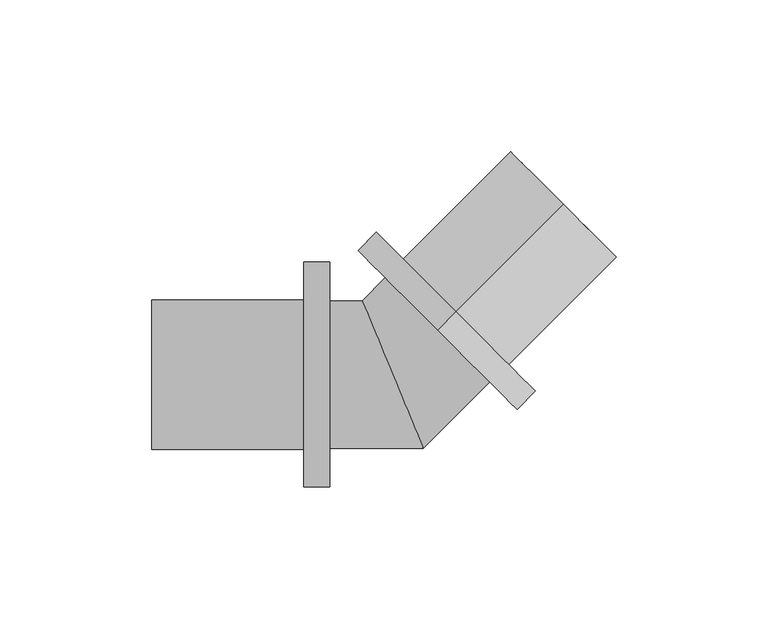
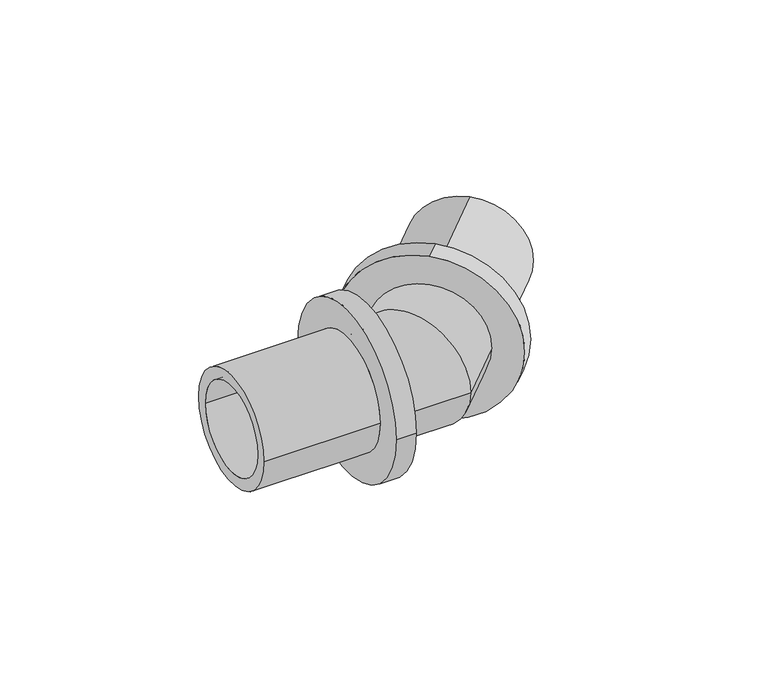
"""IFC4 building model written with IfcOpenShell, lengths in millimetres: pipe fitting geometry, RAUTITAN_Corner_LX : RTI LX C DE."""

from ifc_helpers import new_model, si_unit, frame, origin, place, context, project, spatial, polyline, circle_curve, ellipse_curve, source, transform, mapped, element, save
from ifc_brep_helpers import plane_surface, cylinder_surface, revolved_surface, advanced_brep


def pipe_fitting_7242fcfe(model_context):
    return source(origin(), model_context, "Body", "AdvancedBrep", [
        advanced_brep(
        [(20.7182287, 20.7182287, 37.0), (20.7182287, 20.7182287, -37.0), (14.707821, 14.707821, -37.0), (14.707821, 14.707821, 37.0), (56.0735677, 56.0735677, 24.6), (56.0735677, 56.0735677, -24.6), (20.7182287, 20.7182287, -24.6), (20.7182287, 20.7182287, 24.6), (14.707821, 14.707821, 19.5), (14.707821, 14.707821, -19.5), (56.0735677, 56.0735677, -19.5), (56.0735677, 56.0735677, 19.5)],
        [
            (0, 1, circle_curve(frame((20.7182287, 20.7182287, 0.0), z_axis=(-0.7071067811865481, -0.707106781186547, 0.0), x_axis=(0.0, 0.0, -1.0)), 37.0)),
            (1, 2),
            (2, 3, circle_curve(frame((14.707821, 14.707821, 0.0), z_axis=(0.7071067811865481, 0.707106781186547, 0.0), x_axis=(0.0, 0.0, -1.0)), 37.0)),
            (3, 0),
            (4, 5, circle_curve(frame((56.0735677, 56.0735677, 0.0), z_axis=(-0.7071067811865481, -0.707106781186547, 0.0), x_axis=(0.0, 0.0, -1.0)), 24.6)),
            (5, 6),
            (6, 7, circle_curve(frame((20.7182287, 20.7182287, 0.0), z_axis=(0.7071067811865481, 0.707106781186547, 0.0), x_axis=(0.0, 0.0, -1.0)), 24.6)),
            (7, 4),
            (8, 9, circle_curve(frame((14.707821, 14.707821, 0.0), z_axis=(-0.7071067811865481, -0.707106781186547, 0.0), x_axis=(0.0, 0.0, -1.0)), 19.5)),
            (9, 10),
            (10, 11, circle_curve(frame((56.0735677, 56.0735677, 0.0), z_axis=(0.7071067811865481, 0.707106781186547, 0.0), x_axis=(0.0, 0.0, -1.0)), 19.5)),
            (11, 8),
            (1, 0, circle_curve(frame((20.7182287, 20.7182287, 0.0), z_axis=(-0.7071067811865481, -0.707106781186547, 0.0), x_axis=(0.0, 0.0, 1.0)), 37.0)),
            (3, 2, circle_curve(frame((14.707821, 14.707821, 0.0), z_axis=(0.7071067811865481, 0.707106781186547, 0.0), x_axis=(0.0, 0.0, 1.0)), 37.0)),
            (6, 7, circle_curve(frame((20.7182287, 20.7182287, 0.0), z_axis=(-0.7071067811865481, -0.707106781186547, 0.0), x_axis=(0.0, 0.0, 1.0)), 24.6)),
            (5, 4, circle_curve(frame((56.0735677, 56.0735677, 0.0), z_axis=(-0.7071067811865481, -0.707106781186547, 0.0), x_axis=(0.0, 0.0, 1.0)), 24.6)),
            (10, 11, circle_curve(frame((56.0735677, 56.0735677, 0.0), z_axis=(-0.7071067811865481, -0.707106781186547, 0.0), x_axis=(0.0, 0.0, 1.0)), 19.5)),
            (9, 8, circle_curve(frame((14.707821, 14.707821, 0.0), z_axis=(-0.7071067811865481, -0.707106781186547, 0.0), x_axis=(0.0, 0.0, 1.0)), 19.5)),
        ],
        [
            cylinder_surface(frame((14.707821, 14.707821, 0.0), z_axis=(0.7071067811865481, 0.707106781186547, 0.0), x_axis=(0.0, 0.0, -1.0)), 37.0),
            cylinder_surface(frame((14.707821, 14.707821, 0.0), z_axis=(0.7071067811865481, 0.707106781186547, 0.0), x_axis=(0.0, 0.0, -1.0)), 24.6),
            revolved_surface(polyline([(56.07356770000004, 56.073567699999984, -19.5), (14.707821, 14.707821, -19.5)]), (14.707821, 14.707821, 0.0), (0.7071067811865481, 0.707106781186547, 0.0)),
            cylinder_surface(frame((14.707821, 14.707821, 0.0), z_axis=(0.7071067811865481, 0.707106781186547, 0.0), x_axis=(0.0, 0.0, 1.0)), 37.0),
            plane_surface(frame((20.7182287, 20.7182287, 0.0), z_axis=(0.7071067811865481, 0.707106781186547, 0.0), x_axis=(0.0, 0.0, 1.0))),
            cylinder_surface(frame((14.707821, 14.707821, 0.0), z_axis=(0.7071067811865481, 0.707106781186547, 0.0), x_axis=(0.0, 0.0, 1.0)), 24.6),
            plane_surface(frame((56.0735677, 56.0735677, 0.0), z_axis=(0.7071067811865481, 0.707106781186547, 0.0), x_axis=(0.0, 0.0, 1.0))),
            revolved_surface(polyline([(56.07356770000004, 56.073567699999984, 19.5), (14.707821, 14.707821, 19.5)]), (14.707821, 14.707821, 0.0), (0.7071067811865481, 0.707106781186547, 0.0)),
            plane_surface(frame((14.707821, 14.707821, 0.0), z_axis=(-0.7071067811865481, -0.707106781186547, 0.0), x_axis=(0.0, 0.0, 1.0))),
        ],
        [
            (0, [[1, 2, 3, 4]]),
            (1, [[5, 6, 7, 8]]),
            (2, [[9, 10, 11, 12]]),
            (3, [[13, -4, 14, -2]]),
            (4, [[-13, -1], [15, -7]]),
            (5, [[16, -8, -15, -6]]),
            (6, [[-16, -5], [17, -11]]),
            (7, [[18, -12, -17, -10]]),
            (8, [[-14, -3], [-18, -9]]),
        ],
    ),
        advanced_brep(
        [(-29.3, -37.0, 0.0), (-29.3, 37.0, 0.0), (-20.8, 37.0, 0.0), (-20.8, -37.0, 0.0), (-79.3, -24.6, 0.0), (-79.3, 24.6, 0.0), (-29.3, 24.6, 0.0), (-29.3, -24.6, 0.0), (-20.8, -19.5, 0.0), (-20.8, 19.5, 0.0), (-79.3, 19.5, 0.0), (-79.3, -19.5, 0.0)],
        [
            (0, 1, circle_curve(frame((-29.3, 0.0, 0.0), z_axis=(1.0, 0.0, 0.0), x_axis=(0.0, 1.0, 0.0)), 37.0)),
            (1, 2),
            (2, 3, circle_curve(frame((-20.8, 0.0, 0.0), z_axis=(-1.0, 0.0, 0.0), x_axis=(0.0, 1.0, 0.0)), 37.0)),
            (3, 0),
            (4, 5, circle_curve(frame((-79.3, 0.0, 0.0), z_axis=(1.0, 0.0, 0.0), x_axis=(0.0, 1.0, 0.0)), 24.6)),
            (5, 6),
            (6, 7, circle_curve(frame((-29.3, 0.0, 0.0), z_axis=(-1.0, 0.0, 0.0), x_axis=(0.0, 1.0, 0.0)), 24.6)),
            (7, 4),
            (8, 9, circle_curve(frame((-20.8, 0.0, 0.0), z_axis=(1.0, 0.0, 0.0), x_axis=(0.0, 1.0, 0.0)), 19.5)),
            (9, 10),
            (10, 11, circle_curve(frame((-79.3, 0.0, 0.0), z_axis=(-1.0, 0.0, 0.0), x_axis=(0.0, 1.0, 0.0)), 19.5)),
            (11, 8),
            (1, 0, circle_curve(frame((-29.3, 0.0, 0.0), z_axis=(1.0, 0.0, 0.0), x_axis=(0.0, -1.0, 0.0)), 37.0)),
            (3, 2, circle_curve(frame((-20.8, 0.0, 0.0), z_axis=(-1.0, 0.0, 0.0), x_axis=(0.0, -1.0, 0.0)), 37.0)),
            (6, 7, circle_curve(frame((-29.3, 0.0, 0.0), z_axis=(1.0, 0.0, 0.0), x_axis=(0.0, -1.0, 0.0)), 24.6)),
            (5, 4, circle_curve(frame((-79.3, 0.0, 0.0), z_axis=(1.0, 0.0, 0.0), x_axis=(0.0, -1.0, 0.0)), 24.6)),
            (10, 11, circle_curve(frame((-79.3, 0.0, 0.0), z_axis=(1.0, 0.0, 0.0), x_axis=(0.0, -1.0, 0.0)), 19.5)),
            (9, 8, circle_curve(frame((-20.8, 0.0, 0.0), z_axis=(1.0, 0.0, 0.0), x_axis=(0.0, -1.0, 0.0)), 19.5)),
        ],
        [
            cylinder_surface(frame((-20.8, 0.0, 0.0), z_axis=(-1.0, 0.0, 0.0), x_axis=(0.0, 1.0, 0.0)), 37.0),
            cylinder_surface(frame((-20.8, 0.0, 0.0), z_axis=(-1.0, 0.0, 0.0), x_axis=(0.0, 1.0, 0.0)), 24.6),
            revolved_surface(polyline([(-79.3, 19.5, 0.0), (-20.8, 19.5, 0.0)]), (-20.8, 0.0, 0.0), (-1.0, 0.0, 0.0)),
            cylinder_surface(frame((-20.8, 0.0, 0.0), z_axis=(-1.0, 0.0, 0.0), x_axis=(0.0, -1.0, 0.0)), 37.0),
            plane_surface(frame((-29.3, 0.0, 0.0), z_axis=(-1.0, 0.0, 0.0), x_axis=(0.0, -1.0, 0.0))),
            cylinder_surface(frame((-20.8, 0.0, 0.0), z_axis=(-1.0, 0.0, 0.0), x_axis=(0.0, -1.0, 0.0)), 24.6),
            plane_surface(frame((-79.3, 0.0, 0.0), z_axis=(-1.0, 0.0, 0.0), x_axis=(0.0, -1.0, 0.0))),
            revolved_surface(polyline([(-79.3, -19.5, 0.0), (-20.8, -19.5, 0.0)]), (-20.8, 0.0, 0.0), (-1.0, 0.0, 0.0)),
            plane_surface(frame((-20.8, 0.0, 0.0), z_axis=(1.0, 0.0, 0.0), x_axis=(0.0, -1.0, 0.0))),
        ],
        [
            (0, [[1, 2, 3, 4]]),
            (1, [[5, 6, 7, 8]]),
            (2, [[9, 10, 11, 12]]),
            (3, [[13, -4, 14, -2]]),
            (4, [[-13, -1], [15, -7]]),
            (5, [[16, -8, -15, -6]]),
            (6, [[-16, -5], [17, -11]]),
            (7, [[18, -12, -17, -10]]),
            (8, [[-14, -3], [-18, -9]]),
        ],
    ),
        advanced_brep(
        [(-20.8, -24.3, 0.0), (-20.8, 24.3, 0.0), (-20.8, -19.5, 0.0), (-20.8, 19.5, 0.0), (-8.0771645, 19.5, 0.0), (8.0771645, -19.5, 0.0), (31.8905158, -2.4748737, 0.0), (-2.4748737, 31.8905158, 0.0), (28.4964033, 0.9192388, 0.0), (0.9192388, 28.4964033, 0.0), (10.0653896, -24.3, 0.0), (-10.0653896, 24.3, 0.0)],
        [
            (0, 1, circle_curve(frame((-20.8, 0.0, 0.0), z_axis=(-1.0, 0.0, 0.0), x_axis=(0.0, 1.0, 0.0)), 24.3)),
            (1, 0, circle_curve(frame((-20.8, 0.0, 0.0), z_axis=(-1.0, 0.0, 0.0), x_axis=(0.0, 1.0, 0.0)), 24.3)),
            (2, 3, circle_curve(frame((-20.8, 0.0, 0.0), z_axis=(1.0, 0.0, 0.0), x_axis=(0.0, 1.0, 0.0)), 19.5)),
            (3, 2, circle_curve(frame((-20.8, 0.0, 0.0), z_axis=(1.0, 0.0, 0.0), x_axis=(0.0, 1.0, 0.0)), 19.5)),
            (3, 4),
            (4, 5, ellipse_curve(frame((0.0, 0.0, 0.0), z_axis=(0.923879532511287, 0.38268343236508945, 0.0), x_axis=(0.38268343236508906, -0.9238795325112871, 0.0)), 21.1066479, 19.5)),
            (5, 2),
            (5, 4, ellipse_curve(frame((0.0, 0.0, 0.0), z_axis=(0.923879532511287, 0.38268343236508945, 0.0), x_axis=(0.38268343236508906, -0.9238795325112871, 0.0)), 21.1066479, 19.5)),
            (6, 7, circle_curve(frame((14.707821, 14.707821, 0.0), z_axis=(0.7071067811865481, 0.707106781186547, 0.0), x_axis=(-0.707106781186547, 0.7071067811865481, 0.0)), 24.3)),
            (7, 6, circle_curve(frame((14.707821, 14.707821, 0.0), z_axis=(0.7071067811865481, 0.707106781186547, 0.0), x_axis=(-0.707106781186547, 0.7071067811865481, 0.0)), 24.3)),
            (8, 9, circle_curve(frame((14.707821, 14.707821, 0.0), z_axis=(-0.7071067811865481, -0.707106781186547, 0.0), x_axis=(-0.707106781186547, 0.7071067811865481, 0.0)), 19.5)),
            (9, 8, circle_curve(frame((14.707821, 14.707821, 0.0), z_axis=(-0.7071067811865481, -0.707106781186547, 0.0), x_axis=(-0.707106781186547, 0.7071067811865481, 0.0)), 19.5)),
            (4, 9),
            (8, 5),
            (0, 10),
            (10, 11, ellipse_curve(frame((0.0, 0.0, 0.0), z_axis=(-0.923879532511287, -0.38268343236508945, 0.0), x_axis=(-0.38268343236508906, 0.9238795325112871, 0.0)), 26.3021305, 24.3)),
            (11, 1),
            (11, 10, ellipse_curve(frame((0.0, 0.0, 0.0), z_axis=(-0.923879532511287, -0.38268343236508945, 0.0), x_axis=(-0.38268343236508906, 0.9238795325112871, 0.0)), 26.3021305, 24.3)),
            (10, 6),
            (7, 11),
        ],
        [
            plane_surface(frame((-20.8, 0.0, 0.0), z_axis=(-1.0, 0.0, 0.0), x_axis=(0.0, 0.0, 1.0))),
            revolved_surface(polyline([(8.077164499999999, 19.5, 0.0), (-20.8, 19.5, 0.0)]), (-20.8, 0.0, 0.0), (1.0, 0.0, 0.0)),
            plane_surface(frame((14.707821, 14.707821, 0.0), z_axis=(0.7071067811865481, 0.707106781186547, 0.0), x_axis=(0.0, 0.0, 1.0))),
            revolved_surface(polyline([(0.9192388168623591, 28.496403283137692, 0.0), (-19.49999999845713, 8.077164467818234, 0.0)]), (0.0, 0.0, 0.0), (0.7071067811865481, 0.707106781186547, 0.0)),
            cylinder_surface(frame((-20.8, 0.0, 0.0), z_axis=(-1.0, 0.0, 0.0), x_axis=(0.0, 1.0, 0.0)), 24.3),
            cylinder_surface(frame((0.0, 0.0, 0.0), z_axis=(-0.7071067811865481, -0.707106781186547, 0.0), x_axis=(-0.707106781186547, 0.7071067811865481, 0.0)), 24.3),
        ],
        [
            (0, [[1, 2], [3, 4]]),
            (1, [[-4, 5, 6, 7]]),
            (1, [[-3, -7, 8, -5]]),
            (2, [[9, 10], [11, 12]]),
            (3, [[-6, 13, -11, 14]]),
            (3, [[-8, -14, -12, -13]]),
            (4, [[-1, 15, 16, 17]]),
            (4, [[-2, -17, 18, -15]]),
            (5, [[-16, 19, -10, 20]]),
            (5, [[-18, -20, -9, -19]]),
        ],
    ),
    ])


if __name__ == "__main__":
    model = new_model("IFC4")
    model_context = context("Model", 3, world=origin())
    ifc_project = project(units=[si_unit("LENGTHUNIT", "METRE", prefix="MILLI")], contexts=[model_context])
    site = spatial("IfcSite", under=ifc_project)
    building = spatial("IfcBuilding", under=site)
    placement = place(None, origin())
    pipe_fitting_shape = pipe_fitting_7242fcfe(model_context)
    element("IfcPipeFitting", 1, ObjectType="RAUTITAN_Corner_LX : RTI LX C DE", at=placement, inside=building, context=model_context, shape_type="MappedRepresentation", body=[
        mapped(pipe_fitting_shape, transform((0.0, 0.0, 0.0), x_axis=(1.0, 0.0, 0.0), y_axis=(0.0, 1.0, 0.0), z_axis=(0.0, 0.0, 1.0))),
    ])
    save(model, "model.ifc")
